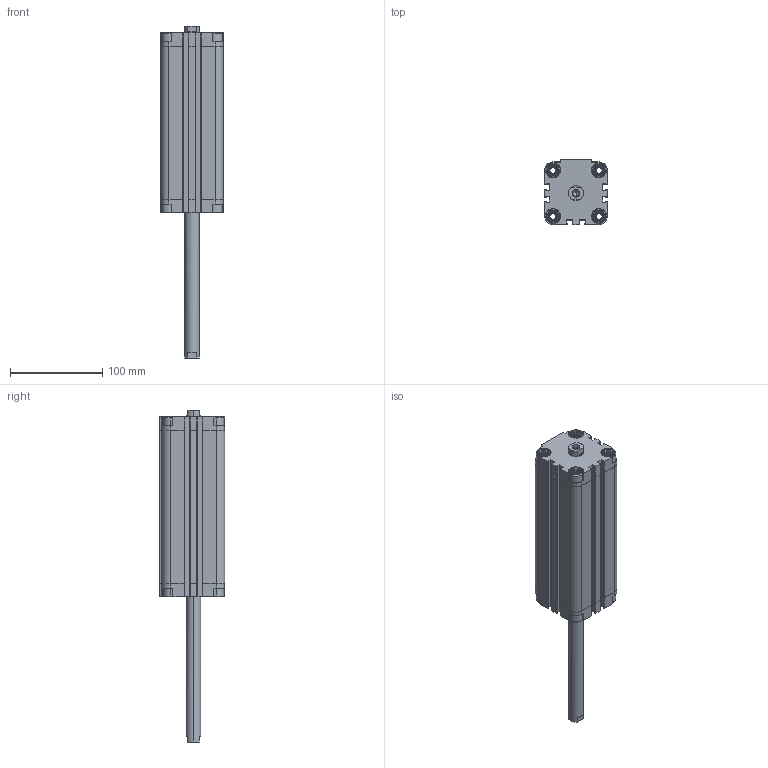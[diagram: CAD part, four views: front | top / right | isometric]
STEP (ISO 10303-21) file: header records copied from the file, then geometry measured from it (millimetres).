
FILE_DESCRIPTION (( 'STEP AP203' ), '1' );
FILE_NAME ('CDVU50-150F-P.STEP', '2020-07-24T18:37:18', ( '' ), ( '' ), 'SwSTEP 2.0', 'SolidWorks 2019', '' );
FILE_SCHEMA (( 'CONFIG_CONTROL_DESIGN' ));
Length unit declared in the file: millimetre
Products named in the file (1): CDVU50-150F-P
Bounding box: 68 x 71 x 360.5 mm (x, y, z)
Volume: 574473.7 mm3; surface area: 155997.6 mm2
Topology: 2 solids, 2 shells, 722 faces, 1928 edges, 1244 vertices
Faces by surface type: plane 422, cylinder 236, cone 48, torus 16
Entity records: 22639 total; most frequent: CARTESIAN_POINT 4463, ORIENTED_EDGE 3840, DIRECTION 3726, EDGE_CURVE 1920, AXIS2_PLACEMENT_3D 1275, VERTEX_POINT 1244, VECTOR 1176, LINE 1176
